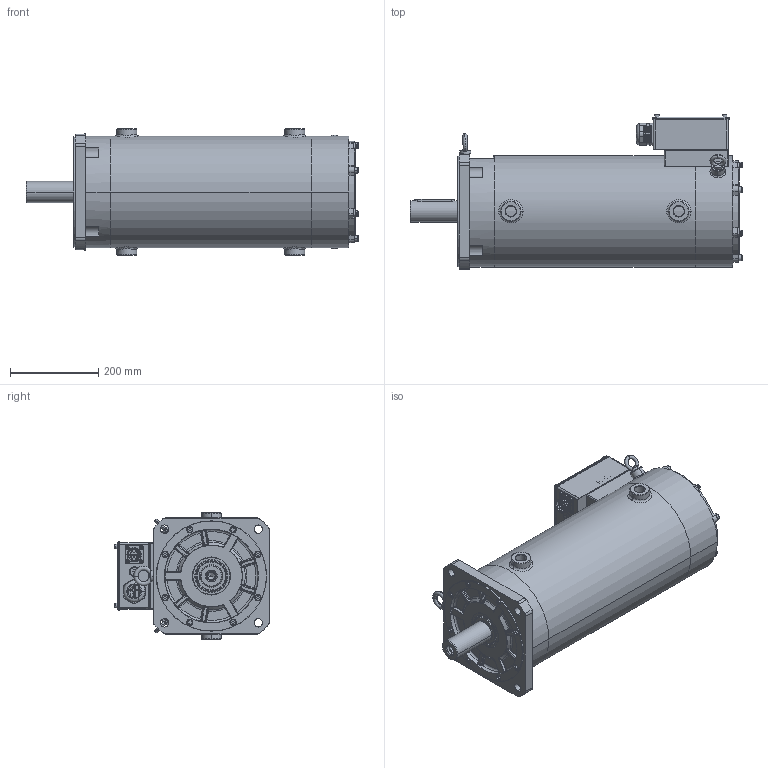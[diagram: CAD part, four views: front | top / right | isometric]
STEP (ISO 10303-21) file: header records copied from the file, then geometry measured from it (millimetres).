
FILE_DESCRIPTION((''),'2;1');
FILE_NAME('MOTOR-440____SW0001','2026-02-12T16:39:49',('01002423'),(''),'CREO PARAMETRIC BY PTC INC, 2019080','CREO PARAMETRIC BY PTC INC, 2019080','');
FILE_SCHEMA(('CONFIG_CONTROL_DESIGN'));
Length unit declared in the file: millimetre
Products named in the file (1): MOTOR-440____SW0001
Bounding box: 752 x 350.99 x 287 mm (x, y, z)
Surface area: 2523930.1 mm2 (no closed solid volume)
Topology: 0 solids, 114 shells, 1953 faces, 6637 edges, 4774 vertices
Faces by surface type: plane 702, cylinder 556, bspline 357, cone 165, torus 150, sphere 23
Entity records: 119285 total; most frequent: CARTESIAN_POINT 64091, DIRECTION 11017, ORIENTED_EDGE 10806, EDGE_CURVE 6606, VERTEX_POINT 4774, AXIS2_PLACEMENT_3D 3847, VECTOR 3323, LINE 3323
